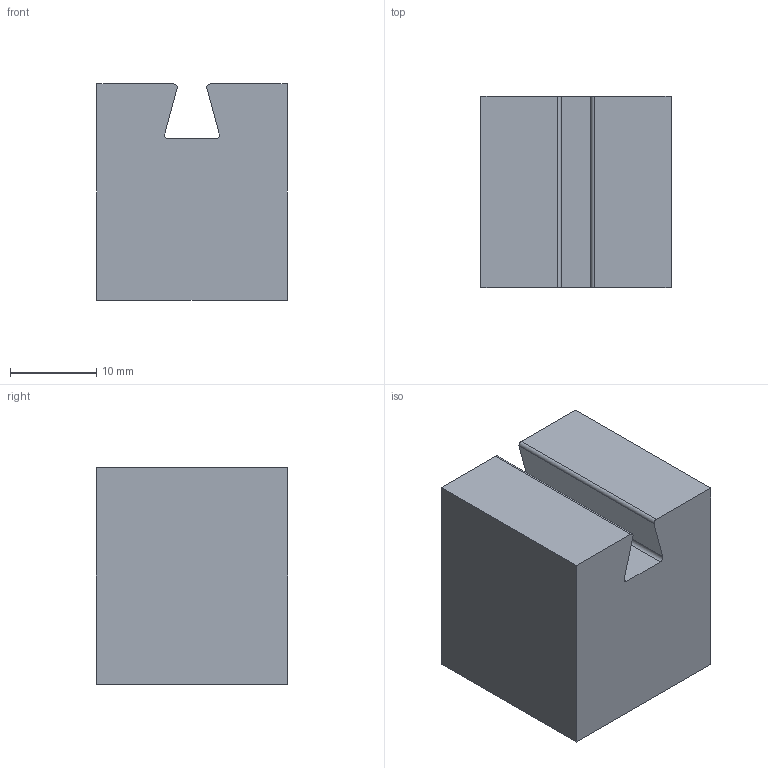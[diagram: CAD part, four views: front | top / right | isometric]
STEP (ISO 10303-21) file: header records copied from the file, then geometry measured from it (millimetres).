
FILE_DESCRIPTION (( 'STEP AP203' ), '1' );
FILE_NAME ('ALA14 Male Dovetail Subtraction.STEP', '2021-01-13T20:03:36', ( '' ), ( '' ), 'SwSTEP 2.0', 'SolidWorks 2020', '' );
FILE_SCHEMA (( 'CONFIG_CONTROL_DESIGN' ));
Length unit declared in the file: inch
Products named in the file (1): ALA14 Male Dovetail Subtraction
Bounding box: 22 x 22.1 x 25 mm (x, y, z)
Volume: 11470.7 mm3; surface area: 3470.4 mm2
Topology: 1 solids, 1 shells, 149 faces, 384 edges, 256 vertices
Faces by surface type: plane 130, bspline 15, cylinder 4
Entity records: 5579 total; most frequent: CARTESIAN_POINT 1949, ORIENTED_EDGE 768, DIRECTION 632, EDGE_CURVE 384, LINE 346, VECTOR 346, VERTEX_POINT 256, EDGE_LOOP 168
